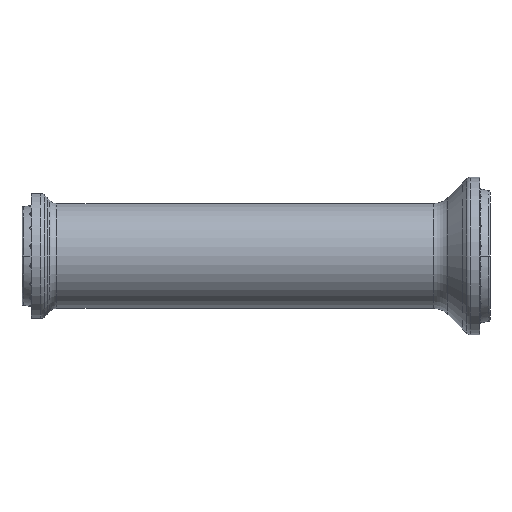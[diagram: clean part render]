
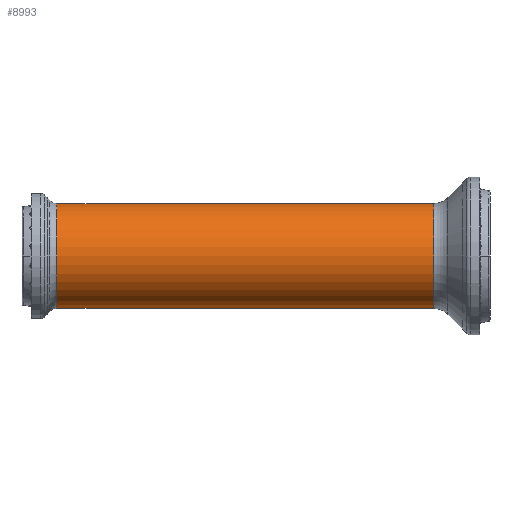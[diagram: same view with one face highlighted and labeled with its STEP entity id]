
A CAD part, left-side view. The second image highlights one B-rep face of the part: STEP entity #8993.
In plain terms, the highlighted cylindrical face has radius 52 mm (diameter 104 mm), a partial arc.
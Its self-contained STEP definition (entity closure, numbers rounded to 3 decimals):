
#4433 = DIRECTION ( 'NONE',  ( 0., 1., 0. ) ) ;
#6769 = EDGE_LOOP ( 'NONE', ( #99591, #6972, #103370, #100348 ) ) ;
#6972 = ORIENTED_EDGE ( 'NONE', *, *, #45875, .T. ) ;
#8993 = ADVANCED_FACE ( 'NONE', ( #107468 ), #82874, .T. ) ;
#11913 = DIRECTION ( 'NONE',  ( 0., 0., 1. ) ) ;
#14588 = AXIS2_PLACEMENT_3D ( 'NONE', #25498, #101391, #91080 ) ;
#18067 = DIRECTION ( 'NONE',  ( 0., 1., 0. ) ) ;
#19354 = VERTEX_POINT ( 'NONE', #36210 ) ;
#25498 = CARTESIAN_POINT ( 'NONE',  ( 0., 448., 0. ) ) ;
#28826 = CARTESIAN_POINT ( 'NONE',  ( 0., 416.358, 0. ) ) ;
#34197 = VECTOR ( 'NONE', #4433, 1000. ) ;
#34978 = CARTESIAN_POINT ( 'NONE',  ( 0., 448., -52. ) ) ;
#36210 = CARTESIAN_POINT ( 'NONE',  ( 0., 416.358, -52. ) ) ;
#37785 = DIRECTION ( 'NONE',  ( 0., 1., 0. ) ) ;
#39595 = CIRCLE ( 'NONE', #41334, 52. ) ;
#39906 = LINE ( 'NONE', #95686, #34197 ) ;
#41334 = AXIS2_PLACEMENT_3D ( 'NONE', #28826, #63204, #11913 ) ;
#43625 = EDGE_CURVE ( 'NONE', #71398, #19354, #84216, .T. ) ;
#45875 = EDGE_CURVE ( 'NONE', #71398, #48090, #104992, .T. ) ;
#45996 = CARTESIAN_POINT ( 'NONE',  ( 0., 42.784, 0. ) ) ;
#48090 = VERTEX_POINT ( 'NONE', #100078 ) ;
#49148 = VERTEX_POINT ( 'NONE', #52857 ) ;
#50460 = EDGE_CURVE ( 'NONE', #19354, #49148, #39595, .T. ) ;
#52857 = CARTESIAN_POINT ( 'NONE',  ( 0., 416.358, 52. ) ) ;
#63204 = DIRECTION ( 'NONE',  ( 0., 1., 0. ) ) ;
#71124 = DIRECTION ( 'NONE',  ( 0., 0., 1. ) ) ;
#71398 = VERTEX_POINT ( 'NONE', #90105 ) ;
#77071 = AXIS2_PLACEMENT_3D ( 'NONE', #45996, #37785, #71124 ) ;
#78351 = EDGE_CURVE ( 'NONE', #48090, #49148, #39906, .T. ) ;
#81960 = VECTOR ( 'NONE', #18067, 1000. ) ;
#82874 = CYLINDRICAL_SURFACE ( 'NONE', #14588, 52. ) ;
#84216 = LINE ( 'NONE', #34978, #81960 ) ;
#90105 = CARTESIAN_POINT ( 'NONE',  ( 0., 42.784, -52. ) ) ;
#91080 = DIRECTION ( 'NONE',  ( 0., 0., 1. ) ) ;
#95686 = CARTESIAN_POINT ( 'NONE',  ( 0., 448., 52. ) ) ;
#99591 = ORIENTED_EDGE ( 'NONE', *, *, #43625, .F. ) ;
#100078 = CARTESIAN_POINT ( 'NONE',  ( 0., 42.784, 52. ) ) ;
#100348 = ORIENTED_EDGE ( 'NONE', *, *, #50460, .F. ) ;
#101391 = DIRECTION ( 'NONE',  ( 0., 1., 0. ) ) ;
#103370 = ORIENTED_EDGE ( 'NONE', *, *, #78351, .T. ) ;
#104992 = CIRCLE ( 'NONE', #77071, 52. ) ;
#107468 = FACE_OUTER_BOUND ( 'NONE', #6769, .T. ) ;
